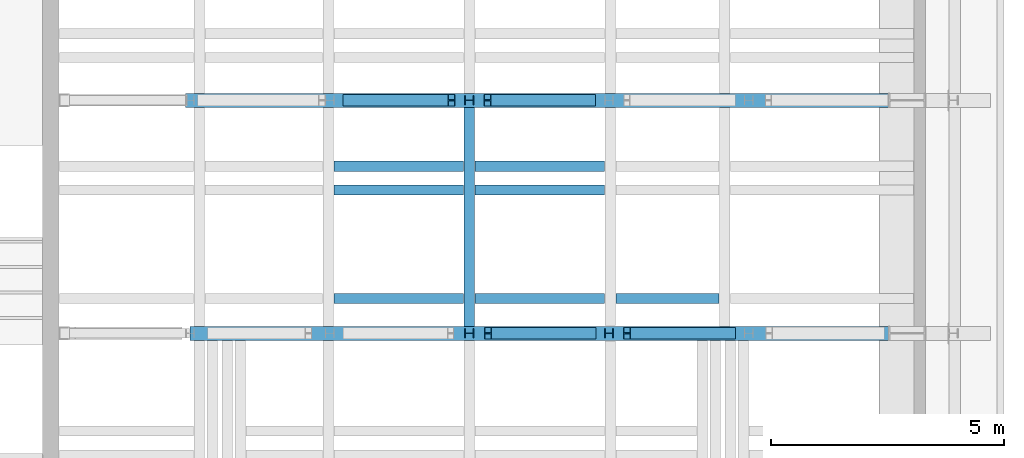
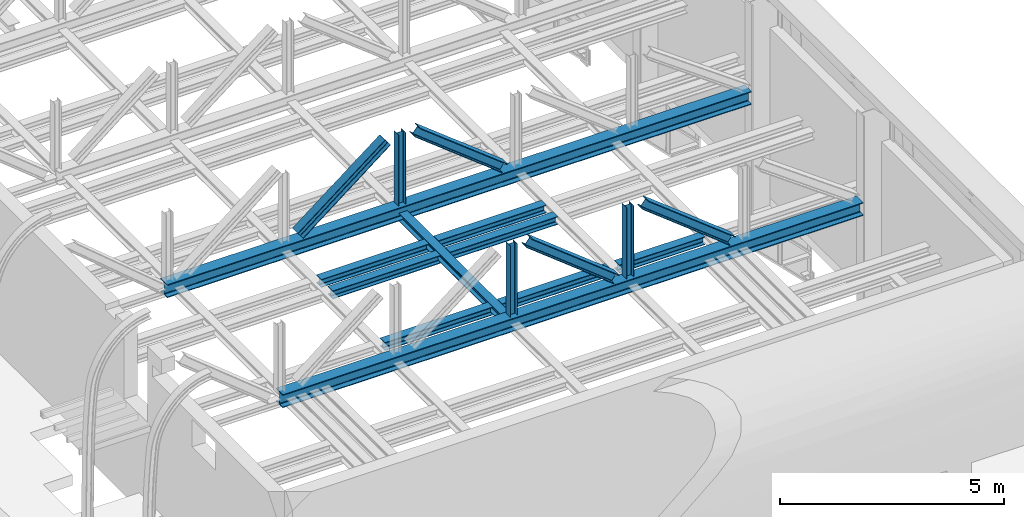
# One storey, part 12 of 29: 17 beams.
"""IFC2X3 building model written with IfcOpenShell, lengths in millimetres."""

from ifc_helpers import new_model, entity, si_unit, converted_unit, derived_unit, direction, frame, frame_2d, origin, place, context, subcontext, project, spatial, polyline, circle_curve, parameter, trimmed, segment, composite_curve, i_section, outline, extrude, material, type_object, element, save


model = new_model("IFC2X3")

# Units and contexts
model_context = context("Model", 3, precision=0.01, world=origin(), true_north=direction((6.12303176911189e-17, 1.0)))
body_context = subcontext(model_context, "Body", "Model", "MODEL_VIEW")
ifc_project = project(units=[si_unit("LENGTHUNIT", "METRE", prefix="MILLI"), si_unit("AREAUNIT", "SQUARE_METRE", prefix="MILLI"), si_unit("VOLUMEUNIT", "CUBIC_METRE"), converted_unit("PLANEANGLEUNIT", "DEGREE", entity("IfcRatioMeasure", 0.0174532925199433), si_unit("PLANEANGLEUNIT", "RADIAN"), dimensions=[0, 0, 0, 0, 0, 0, 0]), si_unit("MASSUNIT", "GRAM", prefix="KILO"), derived_unit("MASSDENSITYUNIT", [(si_unit("MASSUNIT", "GRAM", prefix="KILO"), 1), (si_unit("LENGTHUNIT", "METRE"), -3)]), derived_unit("MOMENTOFINERTIAUNIT", [(si_unit("LENGTHUNIT", "METRE"), 4)]), si_unit("TIMEUNIT", "SECOND"), si_unit("FREQUENCYUNIT", "HERTZ"), si_unit("THERMODYNAMICTEMPERATUREUNIT", "DEGREE_CELSIUS"), derived_unit("THERMALTRANSMITTANCEUNIT", [(si_unit("MASSUNIT", "GRAM", prefix="KILO"), 1), (si_unit("THERMODYNAMICTEMPERATUREUNIT", "KELVIN"), -1), (si_unit("TIMEUNIT", "SECOND"), -3)]), derived_unit("VOLUMETRICFLOWRATEUNIT", [(si_unit("LENGTHUNIT", "METRE"), 3), (si_unit("TIMEUNIT", "SECOND"), -1)]), si_unit("ELECTRICCURRENTUNIT", "AMPERE"), si_unit("ELECTRICVOLTAGEUNIT", "VOLT"), si_unit("POWERUNIT", "WATT"), si_unit("FORCEUNIT", "NEWTON", prefix="KILO"), si_unit("ILLUMINANCEUNIT", "LUX"), si_unit("LUMINOUSFLUXUNIT", "LUMEN"), si_unit("LUMINOUSINTENSITYUNIT", "CANDELA"), derived_unit("USERDEFINED", [(si_unit("MASSUNIT", "GRAM", prefix="KILO"), -1), (si_unit("LENGTHUNIT", "METRE"), -2), (si_unit("TIMEUNIT", "SECOND"), 3), (si_unit("LUMINOUSFLUXUNIT", "LUMEN"), 1)]), derived_unit("LINEARVELOCITYUNIT", [(si_unit("LENGTHUNIT", "METRE"), 1), (si_unit("TIMEUNIT", "SECOND"), -1)]), si_unit("PRESSUREUNIT", "PASCAL"), derived_unit("USERDEFINED", [(si_unit("LENGTHUNIT", "METRE"), -2), (si_unit("MASSUNIT", "GRAM", prefix="KILO"), 1), (si_unit("TIMEUNIT", "SECOND"), -2)]), derived_unit("LINEARFORCEUNIT", [(si_unit("MASSUNIT", "GRAM", prefix="KILO"), 1), (si_unit("LENGTHUNIT", "METRE"), 1), (si_unit("TIMEUNIT", "SECOND"), -2), (si_unit("LENGTHUNIT", "METRE"), -1)]), derived_unit("PLANARFORCEUNIT", [(si_unit("MASSUNIT", "GRAM", prefix="KILO"), 1), (si_unit("LENGTHUNIT", "METRE"), 1), (si_unit("TIMEUNIT", "SECOND"), -2), (si_unit("LENGTHUNIT", "METRE"), -2)])], contexts=[model_context])

# Site, building, storey
site_placement = place(None, origin())
site = spatial("IfcSite", under=ifc_project, at=site_placement, Name="Theater aan de Parade", CompositionType="ELEMENT")
building_placement = place(site_placement, origin())
building = spatial("IfcBuilding", under=site, at=building_placement, Name="Theater aan de Parade", CompositionType="ELEMENT")
storey_placement = place(building_placement, frame((0.0, 0.0, 20300.0)))
storey = spatial("IfcBuildingStorey", under=building, at=storey_placement, Name="05 vijfde verdieping", CompositionType="ELEMENT", Elevation=20300.0)

# Beams
ifc_material = material(Name="00_PBT_MAT_staal_S355")
beam_type_1 = type_object("IfcBeamType", Name="28_PBT_SF_staal_H-profiel:S355_HE220B", PredefinedType="NOTDEFINED")
beam_1_placement = place(storey_placement, frame((76509.4104367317, 29760.0, 0.0), z_axis=(0.0, 0.0, 1.0), x_axis=(0.0, -1.0, 0.0)))
element("IfcBeam", 1, at=beam_1_placement, inside=storey, type_object=beam_type_1, material=ifc_material, Name="28_PBT_SF_staal_H-profiel:S355_HE220B", ObjectType="28_PBT_SF_staal_H-profiel:S355_HE220B", context=body_context, shape_type="SweptSolid", body=[
    extrude(i_section(OverallWidth=220.000000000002, OverallDepth=220.000000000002, WebThickness=9.49999999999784, FlangeThickness=15.9999999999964, FilletRadius=17.9999999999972, at=frame_2d((-4.33431068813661e-12, -1.73230318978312e-11), x_axis=(0.0, 1.0))), frame((0.0, 0.0, 2360.0), z_axis=(1.0, 0.0, 0.0), x_axis=(0.0, 0.0, -1.0)), (0.0, 0.0, 1.0), 4700.00000000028),
])
beam_2_placement = place(storey_placement, frame((76509.4104367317, 28497.5, 0.0), z_axis=(0.0, 0.0, 1.0), x_axis=(-1.0, 0.0, 0.0)))
element("IfcBeam", 2, at=beam_2_placement, inside=storey, type_object=beam_type_1, material=ifc_material, Name="28_PBT_SF_staal_H-profiel:S355_HE220B", ObjectType="28_PBT_SF_staal_H-profiel:S355_HE220B", context=body_context, shape_type="SweptSolid", body=[
    extrude(outline(composite_curve([segment(polyline([(94.0, -110.0), (110.0, -110.0)]), True, "CONTINUOUS"), segment(polyline([(110.0, -110.0), (110.0, 110.0)]), True, "CONTINUOUS"), segment(polyline([(110.0, 110.0), (94.0, 110.0)]), True, "CONTINUOUS"), segment(polyline([(94.0, 110.0), (94.0, 22.7500000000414)]), True, "CONTINUOUS"), segment(trimmed(circle_curve(frame_2d((76.0, 22.7500000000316), x_axis=(1.0, 0.0)), 18.0000000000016), [parameter(270.0)], [parameter(0.0)], True, "PARAMETER"), False, "CONTINUOUS"), segment(polyline([(76.0, 4.75000000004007), (-76.0, 4.74999999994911)]), True, "CONTINUOUS"), segment(trimmed(circle_curve(frame_2d((-76.0, 22.7499999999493), x_axis=(0.0, -1.0)), 18.0000000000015), [parameter(270.0)], [parameter(0.0)], True, "PARAMETER"), False, "CONTINUOUS"), segment(polyline([(-94.0, 22.7499999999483), (-94.0, 110.0)]), True, "CONTINUOUS"), segment(polyline([(-94.0, 110.0), (-110.0, 110.0)]), True, "CONTINUOUS"), segment(polyline([(-110.0, 110.0), (-110.0, -110.0)]), True, "CONTINUOUS"), segment(polyline([(-110.0, -110.0), (-94.0, -110.0)]), True, "CONTINUOUS"), segment(polyline([(-94.0, -110.0), (-94.0, -22.7500000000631)]), True, "CONTINUOUS"), segment(trimmed(circle_curve(frame_2d((-76.0, -22.7500000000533), x_axis=(-1.0, 0.0)), 17.9999999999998), [parameter(270.0)], [parameter(0.0)], True, "PARAMETER"), False, "CONTINUOUS"), segment(polyline([(-76.0, -4.7500000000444), (76.0, -4.74999999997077)]), True, "CONTINUOUS"), segment(trimmed(circle_curve(frame_2d((76.0, -22.749999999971), x_axis=(0.0, 1.0)), 18.0000000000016), [parameter(270.0)], [parameter(0.0)], True, "PARAMETER"), False, "CONTINUOUS"), segment(polyline([(94.0, -22.7499999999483), (94.0, -110.0)]), True, "CONTINUOUS")], self_intersect=False)), frame((122.699999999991, 0.0, 2360.0), z_axis=(1.0, 0.0, 0.0), x_axis=(0.0, 0.0, -1.0)), (0.0, 0.0, 1.0), 2780.65144525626),
])
beam_3_placement = place(storey_placement, frame((79535.461881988, 28497.5, 0.0), z_axis=(0.0, 0.0, 1.0), x_axis=(-1.0, 0.0, 0.0)))
element("IfcBeam", 3, at=beam_3_placement, inside=storey, type_object=beam_type_1, material=ifc_material, Name="28_PBT_SF_staal_H-profiel:S355_HE220B", ObjectType="28_PBT_SF_staal_H-profiel:S355_HE220B", context=body_context, shape_type="SweptSolid", body=[
    extrude(outline(composite_curve([segment(polyline([(94.0, -110.0), (110.0, -110.0)]), True, "CONTINUOUS"), segment(polyline([(110.0, -110.0), (110.0, 110.0)]), True, "CONTINUOUS"), segment(polyline([(110.0, 110.0), (94.0, 110.0)]), True, "CONTINUOUS"), segment(polyline([(94.0, 110.0), (94.0, 22.7500000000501)]), True, "CONTINUOUS"), segment(trimmed(circle_curve(frame_2d((76.0, 22.7500000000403), x_axis=(1.0, 0.0)), 18.0000000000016), [parameter(270.0)], [parameter(0.0)], True, "PARAMETER"), False, "CONTINUOUS"), segment(polyline([(76.0, 4.75000000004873), (-76.0, 4.74999999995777)]), True, "CONTINUOUS"), segment(trimmed(circle_curve(frame_2d((-76.0, 22.749999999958), x_axis=(0.0, -1.0)), 18.0000000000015), [parameter(270.0)], [parameter(0.0)], True, "PARAMETER"), False, "CONTINUOUS"), segment(polyline([(-94.0, 22.7499999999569), (-94.0, 110.0)]), True, "CONTINUOUS"), segment(polyline([(-94.0, 110.0), (-110.0, 110.0)]), True, "CONTINUOUS"), segment(polyline([(-110.0, 110.0), (-110.0, -110.0)]), True, "CONTINUOUS"), segment(polyline([(-110.0, -110.0), (-94.0, -110.0)]), True, "CONTINUOUS"), segment(polyline([(-94.0, -110.0), (-94.0, -22.7500000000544)]), True, "CONTINUOUS"), segment(trimmed(circle_curve(frame_2d((-76.0, -22.7500000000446), x_axis=(-1.0, 0.0)), 17.9999999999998), [parameter(270.0)], [parameter(0.0)], True, "PARAMETER"), False, "CONTINUOUS"), segment(polyline([(-76.0, -4.75000000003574), (76.0, -4.7499999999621)]), True, "CONTINUOUS"), segment(trimmed(circle_curve(frame_2d((76.0, -22.7499999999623), x_axis=(0.0, 1.0)), 18.0000000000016), [parameter(270.0)], [parameter(0.0)], True, "PARAMETER"), False, "CONTINUOUS"), segment(polyline([(94.0, -22.7499999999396), (94.0, -110.0)]), True, "CONTINUOUS")], self_intersect=False)), frame((122.700000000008, 0.0, 2360.0), z_axis=(1.0, 0.0, 0.0), x_axis=(0.0, 0.0, -1.0)), (0.0, 0.0, 1.0), 2780.65144525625),
])
beam_4_placement = place(storey_placement, frame((76509.4104367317, 27983.4998, 0.0), z_axis=(0.0, 0.0, 1.0), x_axis=(-1.0, 0.0, 0.0)))
element("IfcBeam", 4, at=beam_4_placement, inside=storey, type_object=beam_type_1, material=ifc_material, Name="28_PBT_SF_staal_H-profiel:S355_HE220B", ObjectType="28_PBT_SF_staal_H-profiel:S355_HE220B", context=body_context, shape_type="SweptSolid", body=[
    extrude(outline(composite_curve([segment(polyline([(94.0, -110.0), (110.0, -110.0)]), True, "CONTINUOUS"), segment(polyline([(110.0, -110.0), (110.0, 110.0)]), True, "CONTINUOUS"), segment(polyline([(110.0, 110.0), (94.0, 110.0)]), True, "CONTINUOUS"), segment(polyline([(94.0, 110.0), (94.0, 22.7500000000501)]), True, "CONTINUOUS"), segment(trimmed(circle_curve(frame_2d((76.0, 22.7500000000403), x_axis=(1.0, 0.0)), 18.0000000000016), [parameter(270.0)], [parameter(0.0)], True, "PARAMETER"), False, "CONTINUOUS"), segment(polyline([(76.0, 4.75000000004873), (-76.0, 4.74999999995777)]), True, "CONTINUOUS"), segment(trimmed(circle_curve(frame_2d((-76.0, 22.749999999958), x_axis=(0.0, -1.0)), 18.0000000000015), [parameter(270.0)], [parameter(0.0)], True, "PARAMETER"), False, "CONTINUOUS"), segment(polyline([(-94.0, 22.7499999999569), (-94.0, 110.0)]), True, "CONTINUOUS"), segment(polyline([(-94.0, 110.0), (-110.0, 110.0)]), True, "CONTINUOUS"), segment(polyline([(-110.0, 110.0), (-110.0, -110.0)]), True, "CONTINUOUS"), segment(polyline([(-110.0, -110.0), (-94.0, -110.0)]), True, "CONTINUOUS"), segment(polyline([(-94.0, -110.0), (-94.0, -22.7500000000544)]), True, "CONTINUOUS"), segment(trimmed(circle_curve(frame_2d((-76.0, -22.7500000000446), x_axis=(-1.0, 0.0)), 17.9999999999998), [parameter(270.0)], [parameter(0.0)], True, "PARAMETER"), False, "CONTINUOUS"), segment(polyline([(-76.0, -4.75000000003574), (76.0, -4.7499999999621)]), True, "CONTINUOUS"), segment(trimmed(circle_curve(frame_2d((76.0, -22.7499999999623), x_axis=(0.0, 1.0)), 18.0000000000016), [parameter(270.0)], [parameter(0.0)], True, "PARAMETER"), False, "CONTINUOUS"), segment(polyline([(94.0, -22.7499999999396), (94.0, -110.0)]), True, "CONTINUOUS")], self_intersect=False)), frame((122.699999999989, 0.0, 2360.0), z_axis=(1.0, 0.0, 0.0), x_axis=(0.0, 0.0, -1.0)), (0.0, 0.0, 1.0), 2780.65144525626),
])
beam_5_placement = place(storey_placement, frame((79535.461881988, 27983.4998, 0.0), z_axis=(0.0, 0.0, 1.0), x_axis=(-1.0, 0.0, 0.0)))
element("IfcBeam", 5, at=beam_5_placement, inside=storey, type_object=beam_type_1, material=ifc_material, Name="28_PBT_SF_staal_H-profiel:S355_HE220B", ObjectType="28_PBT_SF_staal_H-profiel:S355_HE220B", context=body_context, shape_type="SweptSolid", body=[
    extrude(outline(composite_curve([segment(polyline([(94.0, -110.0), (110.0, -110.0)]), True, "CONTINUOUS"), segment(polyline([(110.0, -110.0), (110.0, 110.0)]), True, "CONTINUOUS"), segment(polyline([(110.0, 110.0), (94.0, 110.0)]), True, "CONTINUOUS"), segment(polyline([(94.0, 110.0), (94.0, 22.7500000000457)]), True, "CONTINUOUS"), segment(trimmed(circle_curve(frame_2d((76.0, 22.750000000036), x_axis=(1.0, 0.0)), 18.0000000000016), [parameter(270.0)], [parameter(0.0)], True, "PARAMETER"), False, "CONTINUOUS"), segment(polyline([(76.0, 4.7500000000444), (-76.0, 4.74999999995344)]), True, "CONTINUOUS"), segment(trimmed(circle_curve(frame_2d((-76.0, 22.7499999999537), x_axis=(0.0, -1.0)), 18.0000000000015), [parameter(270.0)], [parameter(0.0)], True, "PARAMETER"), False, "CONTINUOUS"), segment(polyline([(-94.0, 22.7499999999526), (-94.0, 110.0)]), True, "CONTINUOUS"), segment(polyline([(-94.0, 110.0), (-110.0, 110.0)]), True, "CONTINUOUS"), segment(polyline([(-110.0, 110.0), (-110.0, -110.0)]), True, "CONTINUOUS"), segment(polyline([(-110.0, -110.0), (-94.0, -110.0)]), True, "CONTINUOUS"), segment(polyline([(-94.0, -110.0), (-94.0, -22.7500000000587)]), True, "CONTINUOUS"), segment(trimmed(circle_curve(frame_2d((-76.0, -22.750000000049), x_axis=(-1.0, 0.0)), 17.9999999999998), [parameter(270.0)], [parameter(0.0)], True, "PARAMETER"), False, "CONTINUOUS"), segment(polyline([(-76.0, -4.75000000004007), (76.0, -4.74999999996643)]), True, "CONTINUOUS"), segment(trimmed(circle_curve(frame_2d((76.0, -22.7499999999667), x_axis=(0.0, 1.0)), 18.0000000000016), [parameter(270.0)], [parameter(0.0)], True, "PARAMETER"), False, "CONTINUOUS"), segment(polyline([(94.0, -22.7499999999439), (94.0, -110.0)]), True, "CONTINUOUS")], self_intersect=False)), frame((122.700000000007, 0.0, 2360.0), z_axis=(1.0, 0.0, 0.0), x_axis=(0.0, 0.0, -1.0)), (0.0, 0.0, 1.0), 2780.65144525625),
])
beam_6_placement = place(storey_placement, frame((76509.4104367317, 25654.5, 0.0), z_axis=(0.0, 0.0, 1.0), x_axis=(-1.0, 0.0, 0.0)))
element("IfcBeam", 6, at=beam_6_placement, inside=storey, type_object=beam_type_1, material=ifc_material, Name="28_PBT_SF_staal_H-profiel:S355_HE220B", ObjectType="28_PBT_SF_staal_H-profiel:S355_HE220B", context=body_context, shape_type="SweptSolid", body=[
    extrude(outline(composite_curve([segment(polyline([(94.0, -110.0), (110.0, -110.0)]), True, "CONTINUOUS"), segment(polyline([(110.0, -110.0), (110.0, 110.0)]), True, "CONTINUOUS"), segment(polyline([(110.0, 110.0), (94.0, 110.0)]), True, "CONTINUOUS"), segment(polyline([(94.0, 110.0), (94.0, 22.7500000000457)]), True, "CONTINUOUS"), segment(trimmed(circle_curve(frame_2d((76.0, 22.750000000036), x_axis=(1.0, 0.0)), 18.0000000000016), [parameter(270.0)], [parameter(0.0)], True, "PARAMETER"), False, "CONTINUOUS"), segment(polyline([(76.0, 4.7500000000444), (-76.0, 4.74999999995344)]), True, "CONTINUOUS"), segment(trimmed(circle_curve(frame_2d((-76.0, 22.7499999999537), x_axis=(0.0, -1.0)), 18.0000000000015), [parameter(270.0)], [parameter(0.0)], True, "PARAMETER"), False, "CONTINUOUS"), segment(polyline([(-94.0, 22.7499999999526), (-94.0, 110.0)]), True, "CONTINUOUS"), segment(polyline([(-94.0, 110.0), (-110.0, 110.0)]), True, "CONTINUOUS"), segment(polyline([(-110.0, 110.0), (-110.0, -110.0)]), True, "CONTINUOUS"), segment(polyline([(-110.0, -110.0), (-94.0, -110.0)]), True, "CONTINUOUS"), segment(polyline([(-94.0, -110.0), (-94.0, -22.7500000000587)]), True, "CONTINUOUS"), segment(trimmed(circle_curve(frame_2d((-76.0, -22.750000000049), x_axis=(-1.0, 0.0)), 17.9999999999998), [parameter(270.0)], [parameter(0.0)], True, "PARAMETER"), False, "CONTINUOUS"), segment(polyline([(-76.0, -4.75000000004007), (76.0, -4.74999999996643)]), True, "CONTINUOUS"), segment(trimmed(circle_curve(frame_2d((76.0, -22.7499999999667), x_axis=(0.0, 1.0)), 18.0000000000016), [parameter(270.0)], [parameter(0.0)], True, "PARAMETER"), False, "CONTINUOUS"), segment(polyline([(94.0, -22.7499999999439), (94.0, -110.0)]), True, "CONTINUOUS")], self_intersect=False)), frame((122.699999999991, 0.0, 2360.0), z_axis=(1.0, 0.0, 0.0), x_axis=(0.0, 0.0, -1.0)), (0.0, 0.0, 1.0), 2780.65144525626),
])
beam_7_placement = place(storey_placement, frame((79535.461881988, 25654.5, 0.0), z_axis=(0.0, 0.0, 1.0), x_axis=(-1.0, 0.0, 0.0)))
element("IfcBeam", 7, at=beam_7_placement, inside=storey, type_object=beam_type_1, material=ifc_material, Name="28_PBT_SF_staal_H-profiel:S355_HE220B", ObjectType="28_PBT_SF_staal_H-profiel:S355_HE220B", context=body_context, shape_type="SweptSolid", body=[
    extrude(outline(composite_curve([segment(polyline([(94.0, -110.0), (110.0, -110.0)]), True, "CONTINUOUS"), segment(polyline([(110.0, -110.0), (110.0, 110.0)]), True, "CONTINUOUS"), segment(polyline([(110.0, 110.0), (94.0, 110.0)]), True, "CONTINUOUS"), segment(polyline([(94.0, 110.0), (94.0, 22.7500000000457)]), True, "CONTINUOUS"), segment(trimmed(circle_curve(frame_2d((76.0, 22.750000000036), x_axis=(1.0, 0.0)), 18.0000000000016), [parameter(270.0)], [parameter(0.0)], True, "PARAMETER"), False, "CONTINUOUS"), segment(polyline([(76.0, 4.7500000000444), (-76.0, 4.74999999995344)]), True, "CONTINUOUS"), segment(trimmed(circle_curve(frame_2d((-76.0, 22.7499999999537), x_axis=(0.0, -1.0)), 18.0000000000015), [parameter(270.0)], [parameter(0.0)], True, "PARAMETER"), False, "CONTINUOUS"), segment(polyline([(-94.0, 22.7499999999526), (-94.0, 110.0)]), True, "CONTINUOUS"), segment(polyline([(-94.0, 110.0), (-110.0, 110.0)]), True, "CONTINUOUS"), segment(polyline([(-110.0, 110.0), (-110.0, -110.0)]), True, "CONTINUOUS"), segment(polyline([(-110.0, -110.0), (-94.0, -110.0)]), True, "CONTINUOUS"), segment(polyline([(-94.0, -110.0), (-94.0, -22.7500000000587)]), True, "CONTINUOUS"), segment(trimmed(circle_curve(frame_2d((-76.0, -22.750000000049), x_axis=(-1.0, 0.0)), 17.9999999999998), [parameter(270.0)], [parameter(0.0)], True, "PARAMETER"), False, "CONTINUOUS"), segment(polyline([(-76.0, -4.75000000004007), (76.0, -4.74999999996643)]), True, "CONTINUOUS"), segment(trimmed(circle_curve(frame_2d((76.0, -22.7499999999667), x_axis=(0.0, 1.0)), 18.0000000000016), [parameter(270.0)], [parameter(0.0)], True, "PARAMETER"), False, "CONTINUOUS"), segment(polyline([(94.0, -22.7499999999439), (94.0, -110.0)]), True, "CONTINUOUS")], self_intersect=False)), frame((122.700000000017, 0.0, 2360.0), z_axis=(1.0, 0.0, 0.0), x_axis=(0.0, 0.0, -1.0)), (0.0, 0.0, 1.0), 2780.65144525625),
])
beam_8_placement = place(storey_placement, frame((81995.0, 25654.5, 0.0), z_axis=(0.0, 0.0, 1.0), x_axis=(-1.0, 0.0, 0.0)))
element("IfcBeam", 8, at=beam_8_placement, inside=storey, type_object=beam_type_1, material=ifc_material, Name="28_PBT_SF_staal_H-profiel:S355_HE220B", ObjectType="28_PBT_SF_staal_H-profiel:S355_HE220B", context=body_context, shape_type="SweptSolid", body=[
    extrude(outline(composite_curve([segment(polyline([(94.0, -110.0), (110.0, -110.0)]), True, "CONTINUOUS"), segment(polyline([(110.0, -110.0), (110.0, 110.0)]), True, "CONTINUOUS"), segment(polyline([(110.0, 110.0), (94.0, 110.0)]), True, "CONTINUOUS"), segment(polyline([(94.0, 110.0), (94.0, 22.7500000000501)]), True, "CONTINUOUS"), segment(trimmed(circle_curve(frame_2d((76.0, 22.7500000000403), x_axis=(1.0, 0.0)), 18.0000000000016), [parameter(270.0)], [parameter(0.0)], True, "PARAMETER"), False, "CONTINUOUS"), segment(polyline([(76.0, 4.75000000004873), (-76.0, 4.74999999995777)]), True, "CONTINUOUS"), segment(trimmed(circle_curve(frame_2d((-76.0, 22.749999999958), x_axis=(0.0, -1.0)), 18.0000000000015), [parameter(270.0)], [parameter(0.0)], True, "PARAMETER"), False, "CONTINUOUS"), segment(polyline([(-94.0, 22.7499999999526), (-94.0, 110.0)]), True, "CONTINUOUS"), segment(polyline([(-94.0, 110.0), (-110.0, 110.0)]), True, "CONTINUOUS"), segment(polyline([(-110.0, 110.0), (-110.0, -110.0)]), True, "CONTINUOUS"), segment(polyline([(-110.0, -110.0), (-94.0, -110.0)]), True, "CONTINUOUS"), segment(polyline([(-94.0, -110.0), (-94.0, -22.7500000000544)]), True, "CONTINUOUS"), segment(trimmed(circle_curve(frame_2d((-76.0, -22.7500000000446), x_axis=(-1.0, 0.0)), 17.9999999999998), [parameter(270.0)], [parameter(0.0)], True, "PARAMETER"), False, "CONTINUOUS"), segment(polyline([(-76.0, -4.75000000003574), (76.0, -4.7499999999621)]), True, "CONTINUOUS"), segment(trimmed(circle_curve(frame_2d((76.0, -22.7499999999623), x_axis=(0.0, 1.0)), 18.0000000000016), [parameter(270.0)], [parameter(0.0)], True, "PARAMETER"), False, "CONTINUOUS"), segment(polyline([(94.0, -22.7499999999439), (94.0, -110.0)]), True, "CONTINUOUS")], self_intersect=False)), frame((122.699999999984, 0.0, 2360.0), z_axis=(1.0, 0.0, 0.0), x_axis=(0.0, 0.0, -1.0)), (0.0, 0.0, 1.0), 2214.13811801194),
])
beam_type_2 = type_object("IfcBeamType", Name="28_PBT_SF_staal_H-profiel:S355_HE200A", PredefinedType="NOTDEFINED")
beam_9_placement = place(storey_placement, frame((76512.2823862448, 29910.0, 2430.0), z_axis=(1.0, 0.0, 0.0), x_axis=(0.0, 0.0, 1.0)))
element("IfcBeam", 9, at=beam_9_placement, inside=storey, type_object=beam_type_2, material=ifc_material, Name="28_PBT_SF_staal_H-profiel:S355_HE200A", ObjectType="28_PBT_SF_staal_H-profiel:S355_HE200A", context=body_context, shape_type="SweptSolid", body=[
    extrude(i_section(OverallWidth=199.999999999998, OverallDepth=190.0, WebThickness=6.50000000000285, FlangeThickness=9.99999999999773, FilletRadius=17.9999999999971, at=frame_2d((4.33431068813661e-12, 2.16715534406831e-12), x_axis=(0.0, 1.0))), frame((192.7, 0.0, 0.0), z_axis=(1.0, 0.0, 0.0), x_axis=(0.0, 0.0, -1.0)), (0.0, 0.0, 1.0), 1942.6),
])
beam_10_placement = place(storey_placement, frame((76512.2823862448, 24910.0, 2429.0), z_axis=(1.0, 0.0, 0.0), x_axis=(0.0, 0.0, 1.0)))
element("IfcBeam", 10, at=beam_10_placement, inside=storey, type_object=beam_type_2, material=ifc_material, Name="28_PBT_SF_staal_H-profiel:S355_HE200A", ObjectType="28_PBT_SF_staal_H-profiel:S355_HE200A", context=body_context, shape_type="SweptSolid", body=[
    extrude(outline(composite_curve([segment(polyline([(85.0, -100.0), (95.0, -100.0)]), True, "CONTINUOUS"), segment(polyline([(95.0, -100.0), (95.0, 100.0)]), True, "CONTINUOUS"), segment(polyline([(95.0, 100.0), (85.0, 100.0)]), True, "CONTINUOUS"), segment(polyline([(85.0, 100.0), (85.0, 21.2500000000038)]), True, "CONTINUOUS"), segment(trimmed(circle_curve(frame_2d((67.0, 21.2499999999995), x_axis=(1.0, 0.0)), 17.9999999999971), [parameter(269.999999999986)], [parameter(0.0)], True, "PARAMETER"), False, "CONTINUOUS"), segment(polyline([(67.0, 3.25000000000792), (-67.0, 3.25000000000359)]), True, "CONTINUOUS"), segment(trimmed(circle_curve(frame_2d((-67.0, 21.2499999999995), x_axis=(0.0, -1.0)), 17.9999999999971), [parameter(269.999999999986)], [parameter(0.0)], True, "PARAMETER"), False, "CONTINUOUS"), segment(polyline([(-85.0, 21.2500000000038), (-85.0, 100.0)]), True, "CONTINUOUS"), segment(polyline([(-85.0, 100.0), (-95.0, 100.0)]), True, "CONTINUOUS"), segment(polyline([(-95.0, 100.0), (-95.0, -100.0)]), True, "CONTINUOUS"), segment(polyline([(-95.0, -100.0), (-85.0, -100.0)]), True, "CONTINUOUS"), segment(polyline([(-85.0, -100.0), (-85.0, -21.2499999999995)]), True, "CONTINUOUS"), segment(trimmed(circle_curve(frame_2d((-67.0, -21.2499999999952), x_axis=(-1.0, 0.0)), 17.9999999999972), [parameter(269.999999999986)], [parameter(0.0)], True, "PARAMETER"), False, "CONTINUOUS"), segment(polyline([(-67.0, -3.24999999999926), (67.0, -3.24999999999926)]), True, "CONTINUOUS"), segment(trimmed(circle_curve(frame_2d((67.0, -21.2499999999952), x_axis=(0.0, 1.0)), 17.9999999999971), [parameter(269.999999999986)], [parameter(0.0)], True, "PARAMETER"), False, "CONTINUOUS"), segment(polyline([(85.0, -21.2499999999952), (85.0, -100.0)]), True, "CONTINUOUS")], self_intersect=False)), frame((192.700000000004, 0.0, 0.0), z_axis=(1.0, 0.0, 0.0), x_axis=(0.0, 0.0, -1.0)), (0.0, 0.0, 1.0), 1943.6),
])
beam_11_placement = place(storey_placement, frame((79509.7098483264, 24910.0, 2429.0), z_axis=(1.0, 0.0, 0.0), x_axis=(0.0, 0.0, 1.0)))
element("IfcBeam", 11, at=beam_11_placement, inside=storey, type_object=beam_type_2, material=ifc_material, Name="28_PBT_SF_staal_H-profiel:S355_HE200A", ObjectType="28_PBT_SF_staal_H-profiel:S355_HE200A", context=body_context, shape_type="SweptSolid", body=[
    extrude(outline(composite_curve([segment(polyline([(85.0, -100.0), (95.0, -100.0)]), True, "CONTINUOUS"), segment(polyline([(95.0, -100.0), (95.0, 100.0)]), True, "CONTINUOUS"), segment(polyline([(95.0, 100.0), (85.0, 100.0)]), True, "CONTINUOUS"), segment(polyline([(85.0, 100.0), (85.0, 21.250000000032)]), True, "CONTINUOUS"), segment(trimmed(circle_curve(frame_2d((67.0, 21.2500000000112), x_axis=(1.0, 0.0)), 17.9999999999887), [parameter(269.999999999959)], [parameter(0.0)], True, "PARAMETER"), False, "CONTINUOUS"), segment(polyline([(67.0, 3.25000000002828), (-67.0, 3.24999999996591)]), True, "CONTINUOUS"), segment(trimmed(circle_curve(frame_2d((-67.0, 21.2499999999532), x_axis=(0.0, -1.0)), 17.9999999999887), [parameter(269.999999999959)], [parameter(0.0)], True, "PARAMETER"), False, "CONTINUOUS"), segment(polyline([(-85.0, 21.2499999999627), (-85.0, 100.0)]), True, "CONTINUOUS"), segment(polyline([(-85.0, 100.0), (-95.0, 100.0)]), True, "CONTINUOUS"), segment(polyline([(-95.0, 100.0), (-95.0, -100.0)]), True, "CONTINUOUS"), segment(polyline([(-95.0, -100.0), (-85.0, -100.0)]), True, "CONTINUOUS"), segment(polyline([(-85.0, -100.0), (-85.0, -21.250000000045)]), True, "CONTINUOUS"), segment(trimmed(circle_curve(frame_2d((-67.0, -21.2500000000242), x_axis=(-1.0, 0.0)), 17.9999999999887), [parameter(269.999999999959)], [parameter(0.0)], True, "PARAMETER"), False, "CONTINUOUS"), segment(polyline([(-67.0, -3.25000000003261), (67.0, -3.2499999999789)]), True, "CONTINUOUS"), segment(trimmed(circle_curve(frame_2d((67.0, -21.2499999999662), x_axis=(0.0, 1.0)), 17.9999999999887), [parameter(269.999999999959)], [parameter(0.0)], True, "PARAMETER"), False, "CONTINUOUS"), segment(polyline([(85.0, -21.249999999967), (85.0, -100.0)]), True, "CONTINUOUS")], self_intersect=False)), frame((192.700000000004, 0.0, 0.0), z_axis=(1.0, 0.0, 0.0), x_axis=(0.0, 0.0, -1.0)), (0.0, 0.0, 1.0), 1943.6),
])
beam_type_3 = type_object("IfcBeamType", Name="28_PBT_SF_staal_H-profiel:S355_HE240B", PredefinedType="NOTDEFINED")
beam_12_placement = place(storey_placement, frame((76293.1497430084, 29910.0, 4950.0), z_axis=(0.616716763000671, 0.0, 0.787185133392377), x_axis=(0.787185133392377, 0.0, -0.616716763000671)))
element("IfcBeam", 12, at=beam_12_placement, inside=storey, type_object=beam_type_3, material=ifc_material, Name="28_PBT_SF_staal_H-profiel:S355_HE240B", ObjectType="28_PBT_SF_staal_H-profiel:S355_HE240B", context=body_context, shape_type="SweptSolid", body=[
    extrude(i_section(OverallWidth=240.000000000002, OverallDepth=240.000000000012, WebThickness=10.0000000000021, FlangeThickness=16.9999999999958, FilletRadius=21.0000000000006, at=frame_2d((1.69819713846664e-12, -6.50146603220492e-12), x_axis=(0.0, 1.0))), frame((769.063770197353, 0.0, 0.0), z_axis=(1.0, 0.0, 0.0), x_axis=(0.0, 0.0, -1.0)), (0.0, 0.0, 1.0), 2859.35305799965),
])
beam_13_placement = place(storey_placement, frame((73514.8549241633, 29910.0, 2430.0), z_axis=(-0.615738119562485, 0.0, 0.787950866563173), x_axis=(0.787950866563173, 0.0, 0.615738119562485)))
element("IfcBeam", 13, at=beam_13_placement, inside=storey, type_object=beam_type_3, material=ifc_material, Name="28_PBT_SF_staal_H-profiel:S355_HE240B", ObjectType="28_PBT_SF_staal_H-profiel:S355_HE240B", context=body_context, shape_type="SweptSolid", body=[
    extrude(i_section(OverallWidth=240.000000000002, OverallDepth=240.000000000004, WebThickness=10.0000000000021, FlangeThickness=17.0000000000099, FilletRadius=20.9999999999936, at=frame_2d((1.69819713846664e-12, -2.16715534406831e-12), x_axis=(0.0, 1.0))), frame((458.594277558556, 0.0, 0.0), z_axis=(1.0, 0.0, 0.0), x_axis=(0.0, 0.0, -1.0)), (0.0, 0.0, 1.0), 2863.6395697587),
])
beam_14_placement = place(storey_placement, frame((79293.6535107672, 24910.0, 4950.0), z_axis=(0.61723399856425, 0.0, 0.786779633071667), x_axis=(0.786779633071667, 0.0, -0.61723399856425)))
element("IfcBeam", 14, at=beam_14_placement, inside=storey, type_object=beam_type_3, material=ifc_material, Name="28_PBT_SF_staal_H-profiel:S355_HE240B", ObjectType="28_PBT_SF_staal_H-profiel:S355_HE240B", context=body_context, shape_type="SweptSolid", body=[
    extrude(outline(composite_curve([segment(polyline([(103.0, -120.0), (120.0, -120.0)]), True, "CONTINUOUS"), segment(polyline([(120.0, -120.0), (120.0, 120.0)]), True, "CONTINUOUS"), segment(polyline([(120.0, 120.0), (103.0, 120.0)]), True, "CONTINUOUS"), segment(polyline([(103.0, 120.0), (103.0, 26.0)]), True, "CONTINUOUS"), segment(trimmed(circle_curve(frame_2d((82.0, 26.0), x_axis=(1.0, 0.0)), 21.0000000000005), [parameter(270.0)], [parameter(0.0)], True, "PARAMETER"), False, "CONTINUOUS"), segment(polyline([(82.0, 5.0), (-82.0, 5.0)]), True, "CONTINUOUS"), segment(trimmed(circle_curve(frame_2d((-82.0, 26.0), x_axis=(0.0, -1.0)), 20.9999999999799), [parameter(269.999999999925)], [parameter(0.0)], True, "PARAMETER"), False, "CONTINUOUS"), segment(polyline([(-103.0, 26.0), (-103.0, 120.0)]), True, "CONTINUOUS"), segment(polyline([(-103.0, 120.0), (-120.0, 120.0)]), True, "CONTINUOUS"), segment(polyline([(-120.0, 120.0), (-120.0, -120.0)]), True, "CONTINUOUS"), segment(polyline([(-120.0, -120.0), (-103.0, -120.0)]), True, "CONTINUOUS"), segment(polyline([(-103.0, -120.0), (-103.0, -26.0)]), True, "CONTINUOUS"), segment(trimmed(circle_curve(frame_2d((-82.0, -26.0), x_axis=(-1.0, 0.0)), 20.9999999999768), [parameter(269.999999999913)], [parameter(0.0)], True, "PARAMETER"), False, "CONTINUOUS"), segment(polyline([(-82.0, -5.0), (82.0, -5.0)]), True, "CONTINUOUS"), segment(trimmed(circle_curve(frame_2d((82.0, -26.0), x_axis=(0.0, 1.0)), 20.9999999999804), [parameter(269.999999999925)], [parameter(0.0)], True, "PARAMETER"), False, "CONTINUOUS"), segment(polyline([(103.0, -26.0), (103.0, -120.0)]), True, "CONTINUOUS")], self_intersect=False)), frame((768.351109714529, 0.0, 0.0), z_axis=(1.0, 0.0, 0.0), x_axis=(0.0, 0.0, -1.0)), (0.0, 0.0, 1.0), 2858.71346783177),
])
beam_15_placement = place(storey_placement, frame((76309.29894447, 24910.0, 4950.0), z_axis=(0.618791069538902, 0.0, 0.78555560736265), x_axis=(0.78555560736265, 0.0, -0.618791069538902)))
element("IfcBeam", 15, at=beam_15_placement, inside=storey, type_object=beam_type_3, material=ifc_material, Name="28_PBT_SF_staal_H-profiel:S355_HE240B", ObjectType="28_PBT_SF_staal_H-profiel:S355_HE240B", context=body_context, shape_type="SweptSolid", body=[
    extrude(outline(composite_curve([segment(polyline([(103.0, -120.0), (120.0, -120.0)]), True, "CONTINUOUS"), segment(polyline([(120.0, -120.0), (120.0, 120.0)]), True, "CONTINUOUS"), segment(polyline([(120.0, 120.0), (103.0, 120.0)]), True, "CONTINUOUS"), segment(polyline([(103.0, 120.0), (103.0, 26.0)]), True, "CONTINUOUS"), segment(trimmed(circle_curve(frame_2d((82.0, 26.0), x_axis=(1.0, 0.0)), 20.99999999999), [parameter(269.999999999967)], [parameter(0.0)], True, "PARAMETER"), False, "CONTINUOUS"), segment(polyline([(82.0, 5.0), (-82.0, 5.0)]), True, "CONTINUOUS"), segment(trimmed(circle_curve(frame_2d((-82.0, 26.0), x_axis=(0.0, -1.0)), 20.9999999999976), [parameter(269.999999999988)], [parameter(0.0)], True, "PARAMETER"), False, "CONTINUOUS"), segment(polyline([(-103.0, 26.0), (-103.0, 120.0)]), True, "CONTINUOUS"), segment(polyline([(-103.0, 120.0), (-120.0, 120.0)]), True, "CONTINUOUS"), segment(polyline([(-120.0, 120.0), (-120.0, -120.0)]), True, "CONTINUOUS"), segment(polyline([(-120.0, -120.0), (-103.0, -120.0)]), True, "CONTINUOUS"), segment(polyline([(-103.0, -120.0), (-103.0, -26.0)]), True, "CONTINUOUS"), segment(trimmed(circle_curve(frame_2d((-82.0, -26.0), x_axis=(-1.0, 0.0)), 20.9999999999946), [parameter(269.999999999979)], [parameter(0.0)], True, "PARAMETER"), False, "CONTINUOUS"), segment(polyline([(-82.0, -5.0), (82.0, -5.0)]), True, "CONTINUOUS"), segment(trimmed(circle_curve(frame_2d((82.0, -26.0), x_axis=(0.0, 1.0)), 20.999999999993), [parameter(269.999999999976)], [parameter(0.0)], True, "PARAMETER"), False, "CONTINUOUS"), segment(polyline([(103.0, -26.0), (103.0, -120.0)]), True, "CONTINUOUS")], self_intersect=False)), frame((766.212285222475, 0.0, 0.0), z_axis=(1.0, 0.0, 0.0), x_axis=(0.0, 0.0, -1.0)), (0.0, 0.0, 1.0), 2851.9308825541),
])
beam_type_4 = type_object("IfcBeamType", Name="28_PBT_SF_staal_H-profiel:S355_HE360B", PredefinedType="NOTDEFINED")
beam_16_placement = place(storey_placement, frame((70421.1376973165, 29910.0, 2430.0)))
element("IfcBeam", 16, at=beam_16_placement, inside=storey, type_object=beam_type_4, material=ifc_material, Name="28_PBT_SF_staal_H-profiel:S355_HE360B", ObjectType="28_PBT_SF_staal_H-profiel:S355_HE360B", context=body_context, shape_type="SweptSolid", body=[
    extrude(i_section(OverallWidth=300.000000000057, OverallDepth=360.0, WebThickness=12.4999999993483, FlangeThickness=22.4999999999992, FilletRadius=26.9999999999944, at=frame_2d((2.17426077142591e-12, -6.49436060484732e-12), x_axis=(0.0, 1.0))), frame((0.0, 0.0, 0.0), z_axis=(1.0, 0.0, 0.0), x_axis=(0.0, 0.0, -1.0)), (0.0, 0.0, 1.0), 15083.427075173),
])
beam_17_placement = place(storey_placement, frame((70517.4274620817, 24910.0, 2429.0)))
element("IfcBeam", 17, at=beam_17_placement, inside=storey, type_object=beam_type_4, material=ifc_material, Name="28_PBT_SF_staal_H-profiel:S355_HE360B", ObjectType="28_PBT_SF_staal_H-profiel:S355_HE360B", context=body_context, shape_type="SweptSolid", body=[
    extrude(i_section(OverallWidth=299.999999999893, OverallDepth=360.0, WebThickness=12.5000000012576, FlangeThickness=22.4999999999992, FilletRadius=26.9999999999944, at=frame_2d((2.17426077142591e-12, -2.1600499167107e-12), x_axis=(0.0, 1.0))), frame((0.0, 0.0, 0.0), z_axis=(1.0, 0.0, 0.0), x_axis=(0.0, 0.0, -1.0)), (0.0, 0.0, 1.0), 14987.1373104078),
])

save(model, "model.ifc")
